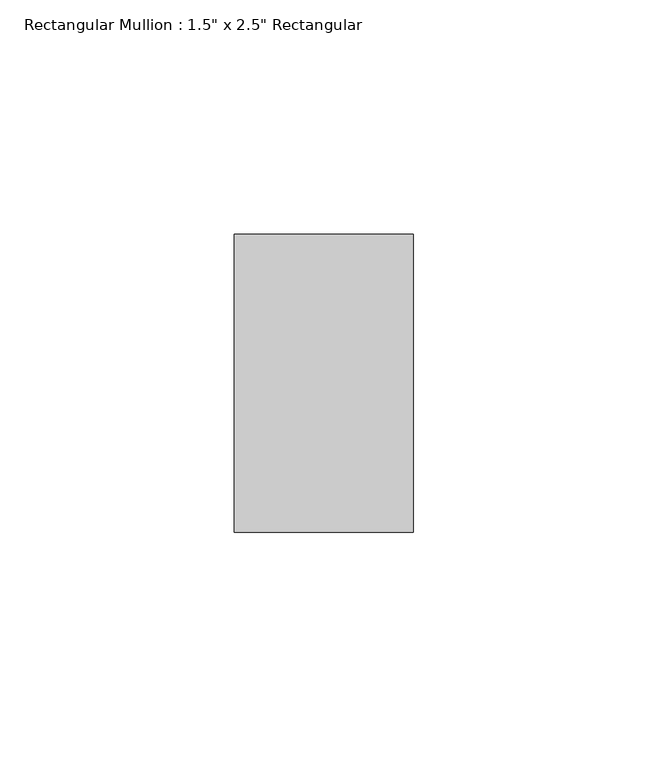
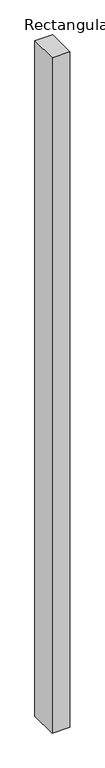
"""IFC4 building model written with IfcOpenShell, lengths in millimetres: member geometry."""

from ifc_helpers import new_model, si_unit, frame, origin, place, context, project, spatial, polyline, outline, extrude, source, transform, mapped, element, save


def member_b87a50da(model_context):
    return source(origin(), model_context, "Body", "SweptSolid", [
        extrude(outline(polyline([(0.0, 31.75), (0.0, -31.75), (-38.1, -31.75), (-38.1, 31.75), (0.0, 31.75)])), frame((0.0, 0.0, -1524.0), z_axis=(0.0, 0.0, 1.0), x_axis=(1.0, 0.0, 0.0)), (0.0, 0.0, 1.0), 1524.0),
    ])


if __name__ == "__main__":
    model = new_model("IFC4")
    model_context = context("Model", 3, world=origin())
    ifc_project = project(units=[si_unit("LENGTHUNIT", "METRE", prefix="MILLI")], contexts=[model_context])
    site = spatial("IfcSite", under=ifc_project)
    building = spatial("IfcBuilding", under=site)
    placement = place(None, origin())
    member_shape = member_b87a50da(model_context)
    element("IfcMember", 1, ObjectType="Rectangular Mullion : 1.5\" x 2.5\" Rectangular", at=placement, inside=building, context=model_context, shape_type="MappedRepresentation", body=[
        mapped(member_shape, transform((0.0, 0.0, 0.0), x_axis=(1.0, 0.0, 0.0), y_axis=(0.0, 1.0, 0.0), z_axis=(0.0, 0.0, 1.0))),
    ])
    save(model, "model.ifc")
